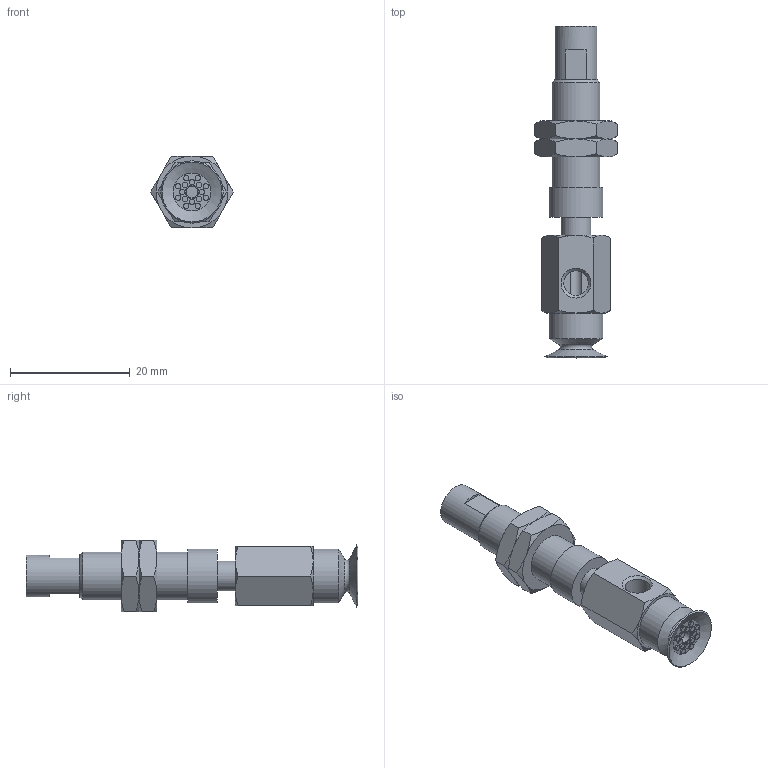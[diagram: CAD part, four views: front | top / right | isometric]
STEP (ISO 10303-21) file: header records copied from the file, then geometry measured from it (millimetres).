
FILE_DESCRIPTION(('STEP AP203'),'1');
FILE_NAME('.stp','2025-02-11T05:47:17',(' '),(' '),'Spatial InterOp 3D',' ',' ');
FILE_SCHEMA(('CONFIG_CONTROL_DESIGN'));
Length unit declared in the file: millimetre
Products named in the file (6): BNABPAYS-10A-3-※; NAPAYS-10A-3--M; NAPAYS-10A-3--F; Nut-10A-S; CONNECTOR-10A-3-PA; BPAG-10A-※_3D
Assembly tree (6 placements, depth 2):
  BNABPAYS-10A-3-※
    NAPAYS-10A-3--M
    NAPAYS-10A-3--F
    Nut-10A-S  x2
    CONNECTOR-10A-3-PA
    BPAG-10A-※_3D
Bounding box: 13.86 x 55.5 x 12 mm (x, y, z)
Volume: 3380.4 mm3; surface area: 4070.6 mm2
Topology: 6 solids, 6 shells, 161 faces, 318 edges, 194 vertices
Faces by surface type: plane 67, cone 51, cylinder 33, torus 10
Full cylindrical faces by diameter (mm): 0.9 x16, 2 x2, 4 x2, 4.134 x2, 5 x3, 6 x2, 7 x1, 7.188 x2, 8 x1, 9 x2
Entity records: 3748 total; most frequent: CARTESIAN_POINT 861, DIRECTION 560, ORIENTED_EDGE 418, AXIS2_PLACEMENT_3D 260, EDGE_LOOP 226, EDGE_CURVE 209, FACE_OUTER_BOUND 180, VERTEX_POINT 159
